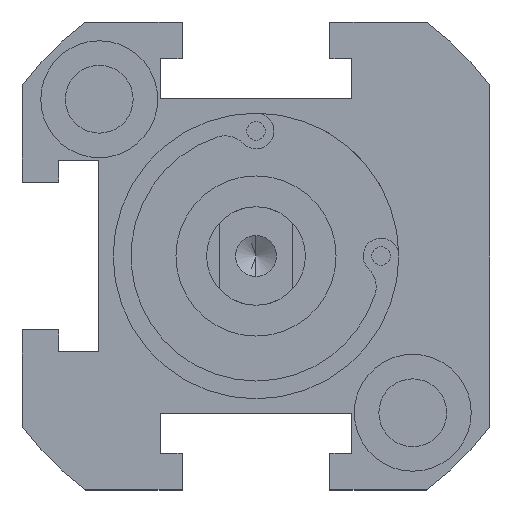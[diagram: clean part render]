
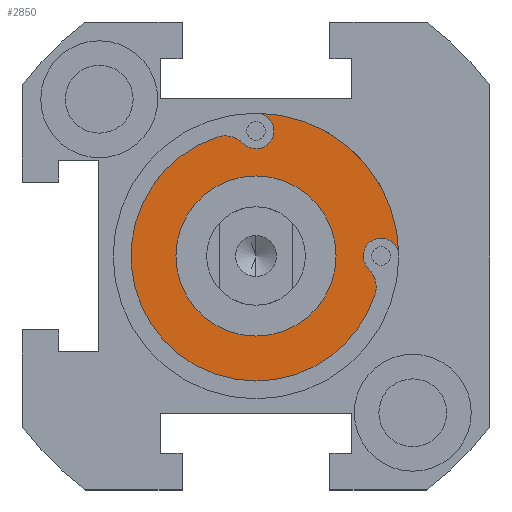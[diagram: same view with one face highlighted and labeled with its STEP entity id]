
A CAD part, front view. The second image highlights one B-rep face of the part: STEP entity #2850.
In plain terms, the highlighted planar face has unit normal (0, -1, 0) as drawn and (0, 1, 0) by its records, which use the part's own axes.
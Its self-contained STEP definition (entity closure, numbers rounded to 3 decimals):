
#52 = VERTEX_POINT ( 'NONE', #795 ) ;
#92 = DIRECTION ( 'NONE',  ( 0., 0., 1. ) ) ;
#94 = EDGE_CURVE ( 'NONE', #371, #2433, #1672, .T. ) ;
#103 = DIRECTION ( 'NONE',  ( 0., 0., 1. ) ) ;
#143 = CARTESIAN_POINT ( 'NONE',  ( 9.146, -2., 1.046 ) ) ;
#167 = VERTEX_POINT ( 'NONE', #1047 ) ;
#191 = DIRECTION ( 'NONE',  ( 0., 0., 1. ) ) ;
#214 = CARTESIAN_POINT ( 'NONE',  ( 11.6, -2., 0. ) ) ;
#267 = ORIENTED_EDGE ( 'NONE', *, *, #998, .T. ) ;
#327 = DIRECTION ( 'NONE',  ( 0., 1., 0. ) ) ;
#330 = CIRCLE ( 'NONE', #1561, 2. ) ;
#348 = FACE_OUTER_BOUND ( 'NONE', #2208, .T. ) ;
#371 = VERTEX_POINT ( 'NONE', #214 ) ;
#418 = ORIENTED_EDGE ( 'NONE', *, *, #1454, .F. ) ;
#442 = DIRECTION ( 'NONE',  ( 0., 1., 0. ) ) ;
#459 = AXIS2_PLACEMENT_3D ( 'NONE', #2877, #2412, #191 ) ;
#545 = DIRECTION ( 'NONE',  ( 0., 1., 0. ) ) ;
#571 = CARTESIAN_POINT ( 'NONE',  ( 0., -2., 6.5 ) ) ;
#588 = CARTESIAN_POINT ( 'NONE',  ( 0., -2., 0. ) ) ;
#618 = DIRECTION ( 'NONE',  ( 0., 0., 1. ) ) ;
#663 = CARTESIAN_POINT ( 'NONE',  ( 0., -2., 0. ) ) ;
#711 = AXIS2_PLACEMENT_3D ( 'NONE', #1205, #740, #2105 ) ;
#723 = ORIENTED_EDGE ( 'NONE', *, *, #94, .F. ) ;
#740 = DIRECTION ( 'NONE',  ( 0., 1., 0. ) ) ;
#778 = ORIENTED_EDGE ( 'NONE', *, *, #790, .T. ) ;
#784 = ORIENTED_EDGE ( 'NONE', *, *, #1369, .F. ) ;
#790 = EDGE_CURVE ( 'NONE', #851, #2433, #1009, .T. ) ;
#795 = CARTESIAN_POINT ( 'NONE',  ( 0., -2., -8.7 ) ) ;
#803 = VERTEX_POINT ( 'NONE', #571 ) ;
#844 = VERTEX_POINT ( 'NONE', #2592 ) ;
#851 = VERTEX_POINT ( 'NONE', #1892 ) ;
#971 = CIRCLE ( 'NONE', #711, 1.45 ) ;
#975 = CIRCLE ( 'NONE', #2864, 1.45 ) ;
#998 = EDGE_CURVE ( 'NONE', #371, #844, #2042, .T. ) ;
#1009 = CIRCLE ( 'NONE', #2169, 2. ) ;
#1037 = CARTESIAN_POINT ( 'NONE',  ( 10.15, -2., 0. ) ) ;
#1047 = CARTESIAN_POINT ( 'NONE',  ( 0., -2., -6.5 ) ) ;
#1087 = CARTESIAN_POINT ( 'NONE',  ( 0., -2., 10.15 ) ) ;
#1100 = CIRCLE ( 'NONE', #2656, 6.5 ) ;
#1104 = EDGE_CURVE ( 'NONE', #2522, #1720, #2184, .T. ) ;
#1147 = DIRECTION ( 'NONE',  ( 0., 0., 1. ) ) ;
#1177 = CIRCLE ( 'NONE', #459, 10.15 ) ;
#1205 = CARTESIAN_POINT ( 'NONE',  ( 0., -2., -10.15 ) ) ;
#1245 = AXIS2_PLACEMENT_3D ( 'NONE', #663, #442, #1424 ) ;
#1266 = DIRECTION ( 'NONE',  ( 0., 0., 1. ) ) ;
#1275 = ORIENTED_EDGE ( 'NONE', *, *, #1698, .T. ) ;
#1334 = AXIS2_PLACEMENT_3D ( 'NONE', #2758, #1439, #2551 ) ;
#1369 = EDGE_CURVE ( 'NONE', #803, #167, #2218, .T. ) ;
#1417 = EDGE_CURVE ( 'NONE', #52, #844, #975, .T. ) ;
#1424 = DIRECTION ( 'NONE',  ( 0., 0., 1. ) ) ;
#1439 = DIRECTION ( 'NONE',  ( 0., 1., 0. ) ) ;
#1454 = EDGE_CURVE ( 'NONE', #2737, #52, #971, .T. ) ;
#1561 = AXIS2_PLACEMENT_3D ( 'NONE', #1744, #2844, #2397 ) ;
#1672 = CIRCLE ( 'NONE', #2297, 1.45 ) ;
#1686 = ORIENTED_EDGE ( 'NONE', *, *, #1417, .F. ) ;
#1692 = CARTESIAN_POINT ( 'NONE',  ( 7.761, -2., 2.489 ) ) ;
#1698 = EDGE_CURVE ( 'NONE', #2737, #2522, #330, .T. ) ;
#1720 = VERTEX_POINT ( 'NONE', #1087 ) ;
#1742 = AXIS2_PLACEMENT_3D ( 'NONE', #2242, #2720, #1147 ) ;
#1744 = CARTESIAN_POINT ( 'NONE',  ( -2.489, -2., -7.761 ) ) ;
#1862 = ORIENTED_EDGE ( 'NONE', *, *, #2014, .F. ) ;
#1864 = FACE_BOUND ( 'NONE', #1931, .T. ) ;
#1892 = CARTESIAN_POINT ( 'NONE',  ( 9.665, -2., 3.099 ) ) ;
#1894 = EDGE_CURVE ( 'NONE', #1720, #851, #1177, .T. ) ;
#1931 = EDGE_LOOP ( 'NONE', ( #784, #1862 ) ) ;
#1958 = DIRECTION ( 'NONE',  ( 0., 1., 0. ) ) ;
#2014 = EDGE_CURVE ( 'NONE', #167, #803, #1100, .T. ) ;
#2042 = CIRCLE ( 'NONE', #2426, 11.6 ) ;
#2105 = DIRECTION ( 'NONE',  ( 0., 0., 1. ) ) ;
#2169 = AXIS2_PLACEMENT_3D ( 'NONE', #1692, #327, #103 ) ;
#2184 = CIRCLE ( 'NONE', #1245, 10.15 ) ;
#2193 = CARTESIAN_POINT ( 'NONE',  ( 0., -2., 0. ) ) ;
#2196 = CARTESIAN_POINT ( 'NONE',  ( -3.099, -2., -9.665 ) ) ;
#2208 = EDGE_LOOP ( 'NONE', ( #2794, #2685, #778, #723, #267, #1686, #418, #1275 ) ) ;
#2211 = DIRECTION ( 'NONE',  ( 0., 1., 0. ) ) ;
#2218 = CIRCLE ( 'NONE', #1334, 6.5 ) ;
#2242 = CARTESIAN_POINT ( 'NONE',  ( 0., -2., 0. ) ) ;
#2297 = AXIS2_PLACEMENT_3D ( 'NONE', #1037, #2598, #1266 ) ;
#2307 = CARTESIAN_POINT ( 'NONE',  ( 0., -2., -10.15 ) ) ;
#2397 = DIRECTION ( 'NONE',  ( 0., 0., 1. ) ) ;
#2412 = DIRECTION ( 'NONE',  ( 0., 1., 0. ) ) ;
#2426 = AXIS2_PLACEMENT_3D ( 'NONE', #588, #1958, #618 ) ;
#2433 = VERTEX_POINT ( 'NONE', #143 ) ;
#2522 = VERTEX_POINT ( 'NONE', #2196 ) ;
#2551 = DIRECTION ( 'NONE',  ( 0., 0., 1. ) ) ;
#2592 = CARTESIAN_POINT ( 'NONE',  ( 0., -2., -11.6 ) ) ;
#2598 = DIRECTION ( 'NONE',  ( 0., 1., 0. ) ) ;
#2633 = DIRECTION ( 'NONE',  ( 0., 0., 1. ) ) ;
#2656 = AXIS2_PLACEMENT_3D ( 'NONE', #2193, #2211, #2633 ) ;
#2684 = PLANE ( 'NONE',  #1742 ) ;
#2685 = ORIENTED_EDGE ( 'NONE', *, *, #1894, .T. ) ;
#2686 = CARTESIAN_POINT ( 'NONE',  ( -1.046, -2., -9.146 ) ) ;
#2720 = DIRECTION ( 'NONE',  ( 0., 1., 0. ) ) ;
#2737 = VERTEX_POINT ( 'NONE', #2686 ) ;
#2758 = CARTESIAN_POINT ( 'NONE',  ( 0., -2., 0. ) ) ;
#2794 = ORIENTED_EDGE ( 'NONE', *, *, #1104, .T. ) ;
#2844 = DIRECTION ( 'NONE',  ( 0., 1., 0. ) ) ;
#2850 = ADVANCED_FACE ( 'NONE', ( #1864, #348 ), #2684, .T. ) ;
#2864 = AXIS2_PLACEMENT_3D ( 'NONE', #2307, #545, #92 ) ;
#2877 = CARTESIAN_POINT ( 'NONE',  ( 0., -2., 0. ) ) ;
